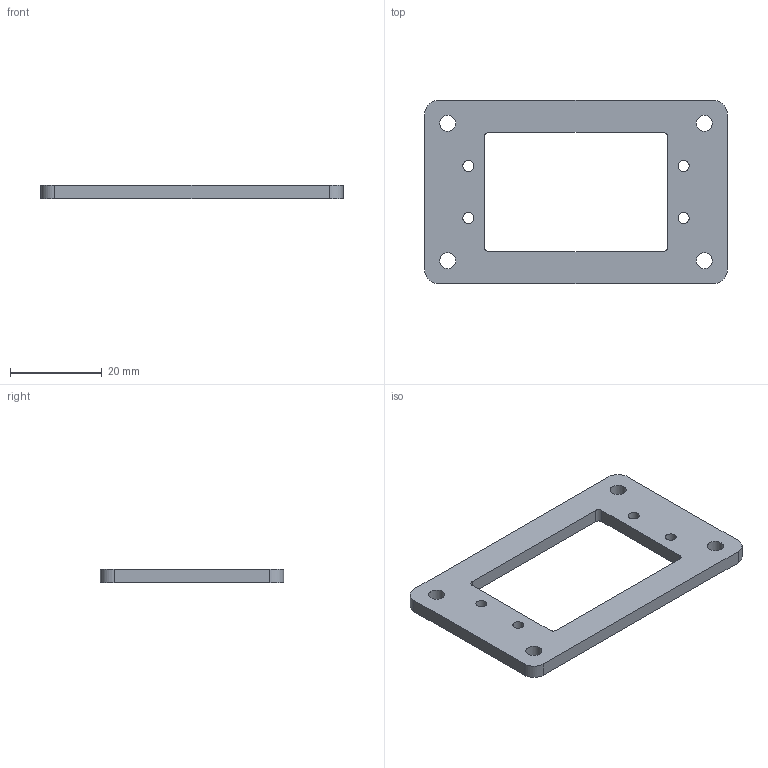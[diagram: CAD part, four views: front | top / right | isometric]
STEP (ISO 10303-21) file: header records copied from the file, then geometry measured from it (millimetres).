
FILE_DESCRIPTION(('Open CASCADE Model'),'2;1');
FILE_NAME('Open CASCADE Shape Model','2026-10-13T11:47:35',('Author'),( 'Open CASCADE'),'Open CASCADE STEP processor 7.8','Open CASCADE 7.8' ,'Unknown');
FILE_SCHEMA(('AUTOMOTIVE_DESIGN { 1 0 10303 214 1 1 1 1 }'));
Length unit declared in the file: millimetre
Products named in the file (1): Open CASCADE STEP translator 7.8 11
Bounding box: 66 x 40 x 3 mm (x, y, z)
Volume: 4609.7 mm3; surface area: 4306.9 mm2
Topology: 1 solids, 1 shells, 26 faces, 72 edges, 48 vertices
Faces by surface type: cylinder 16, plane 10
Full cylindrical faces by diameter (mm): 2.4 x4, 3.5 x4
Entity records: 1868 total; most frequent: CARTESIAN_POINT 415, DIRECTION 268, ORIENTED_EDGE 144, PCURVE 144, DEFINITIONAL_REPRESENTATION 144, LINE 136, VECTOR 136, EDGE_CURVE 72
